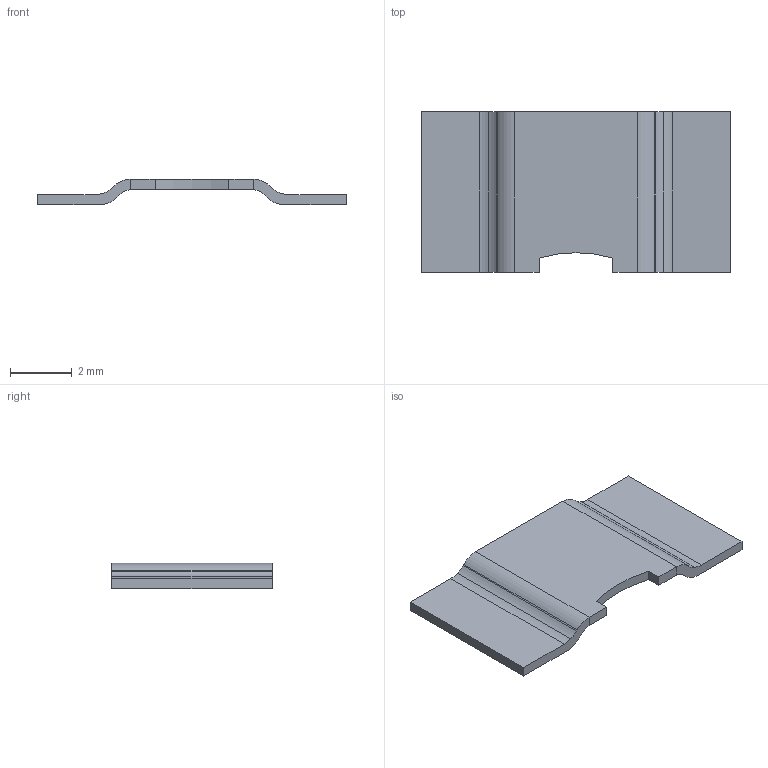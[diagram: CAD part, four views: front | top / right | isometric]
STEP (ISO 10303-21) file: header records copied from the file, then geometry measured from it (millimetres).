
FILE_DESCRIPTION (( 'STEP AP214' ), '1' );
FILE_NAME ('WSL3921 (0.004).step', '2018-11-05T16:59:03', ( '' ), ( '' ), 'SwSTEP 2.0', 'SolidWorks 2018', '' );
FILE_SCHEMA (( 'AUTOMOTIVE_DESIGN' ));
Length unit declared in the file: millimetre
Products named in the file (1): WSL3921 (0.004)
Bounding box: 10 x 5.2 x 0.83 mm (x, y, z)
Volume: 17.4 mm3; surface area: 121.7 mm2
Topology: 3 solids, 3 shells, 38 faces, 96 edges, 64 vertices
Faces by surface type: plane 25, cylinder 13
Entity records: 1198 total; most frequent: DIRECTION 200, CARTESIAN_POINT 199, ORIENTED_EDGE 192, EDGE_CURVE 96, VECTOR 70, LINE 70, AXIS2_PLACEMENT_3D 65, VERTEX_POINT 64
